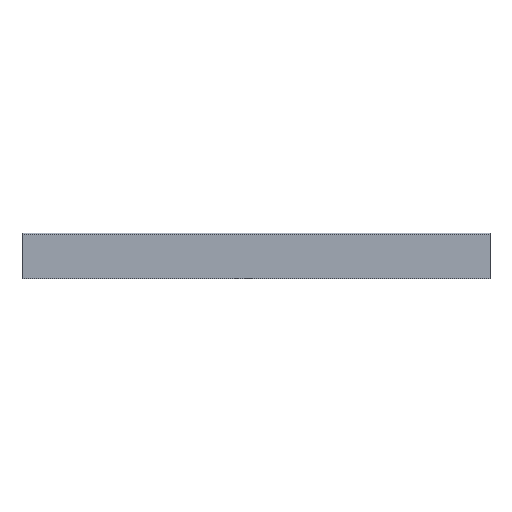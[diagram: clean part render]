
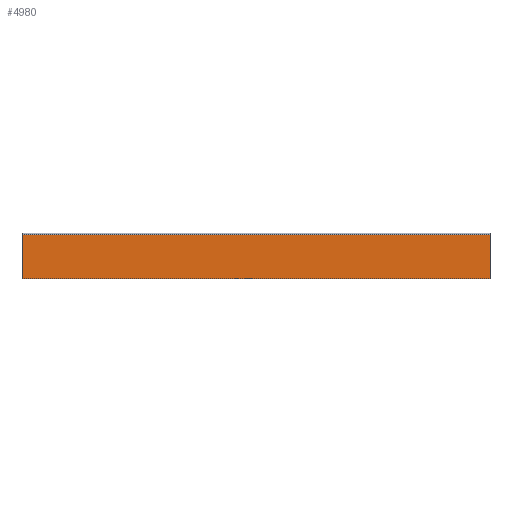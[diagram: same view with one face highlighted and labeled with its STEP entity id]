
A CAD part, left-side view. The second image highlights one B-rep face of the part: STEP entity #4980.
In plain terms, the highlighted planar face has unit normal (-1, 0, 0).
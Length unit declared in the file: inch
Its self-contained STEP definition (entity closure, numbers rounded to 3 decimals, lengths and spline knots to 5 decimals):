
#53 = CARTESIAN_POINT ( 'NONE',  ( 0., 0., 0. ) ) ;
#113 = CARTESIAN_POINT ( 'NONE',  ( 0., -4.6, 0.45 ) ) ;
#122 = ORIENTED_EDGE ( 'NONE', *, *, #425, .T. ) ;
#371 = CARTESIAN_POINT ( 'NONE',  ( 0., 0., 0.435 ) ) ;
#425 = EDGE_CURVE ( 'NONE', #2973, #3499, #1096, .T. ) ;
#519 = DIRECTION ( 'NONE',  ( 0., 1., 0. ) ) ;
#709 = VECTOR ( 'NONE', #2298, 39.37008 ) ;
#728 = EDGE_LOOP ( 'NONE', ( #2745, #122, #2109, #4278 ) ) ;
#765 = DIRECTION ( 'NONE',  ( 0., 0., -1. ) ) ;
#865 = EDGE_CURVE ( 'NONE', #2199, #2668, #6091, .T. ) ;
#1038 = VECTOR ( 'NONE', #3195, 39.37008 ) ;
#1096 = LINE ( 'NONE', #2334, #4921 ) ;
#1435 = LINE ( 'NONE', #3710, #1038 ) ;
#1569 = FACE_OUTER_BOUND ( 'NONE', #728, .T. ) ;
#1779 = LINE ( 'NONE', #113, #5633 ) ;
#2109 = ORIENTED_EDGE ( 'NONE', *, *, #2444, .T. ) ;
#2150 = DIRECTION ( 'NONE',  ( 1., 0., 0. ) ) ;
#2199 = VERTEX_POINT ( 'NONE', #6683 ) ;
#2298 = DIRECTION ( 'NONE',  ( 0., -1., 0. ) ) ;
#2334 = CARTESIAN_POINT ( 'NONE',  ( 0., 0., 0.435 ) ) ;
#2444 = EDGE_CURVE ( 'NONE', #3499, #2199, #1435, .T. ) ;
#2668 = VERTEX_POINT ( 'NONE', #4814 ) ;
#2745 = ORIENTED_EDGE ( 'NONE', *, *, #3432, .F. ) ;
#2973 = VERTEX_POINT ( 'NONE', #5428 ) ;
#3195 = DIRECTION ( 'NONE',  ( 0., 0., -1. ) ) ;
#3432 = EDGE_CURVE ( 'NONE', #2973, #2668, #1779, .T. ) ;
#3499 = VERTEX_POINT ( 'NONE', #371 ) ;
#3710 = CARTESIAN_POINT ( 'NONE',  ( 0., 0., 0.45 ) ) ;
#4278 = ORIENTED_EDGE ( 'NONE', *, *, #865, .T. ) ;
#4814 = CARTESIAN_POINT ( 'NONE',  ( 0., -4.6, 0. ) ) ;
#4884 = AXIS2_PLACEMENT_3D ( 'NONE', #6614, #2150, #519 ) ;
#4921 = VECTOR ( 'NONE', #5643, 39.37008 ) ;
#4980 = ADVANCED_FACE ( 'NONE', ( #1569 ), #7197, .F. ) ;
#5428 = CARTESIAN_POINT ( 'NONE',  ( 0., -4.6, 0.435 ) ) ;
#5633 = VECTOR ( 'NONE', #765, 39.37008 ) ;
#5643 = DIRECTION ( 'NONE',  ( 0., 1., 0. ) ) ;
#6091 = LINE ( 'NONE', #53, #709 ) ;
#6614 = CARTESIAN_POINT ( 'NONE',  ( 0., 0., 0.45 ) ) ;
#6683 = CARTESIAN_POINT ( 'NONE',  ( 0., 0., 0. ) ) ;
#7197 = PLANE ( 'NONE',  #4884 ) ;
